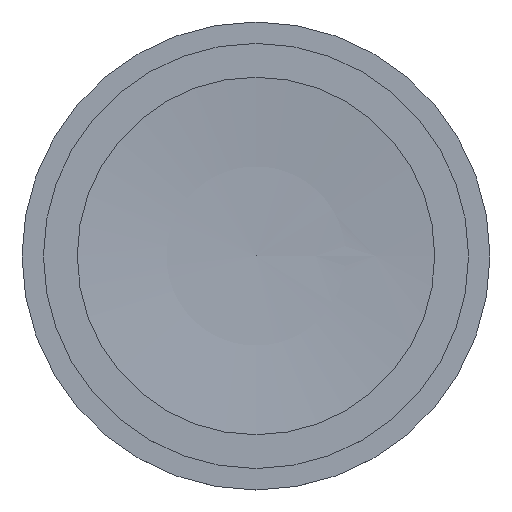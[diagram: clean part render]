
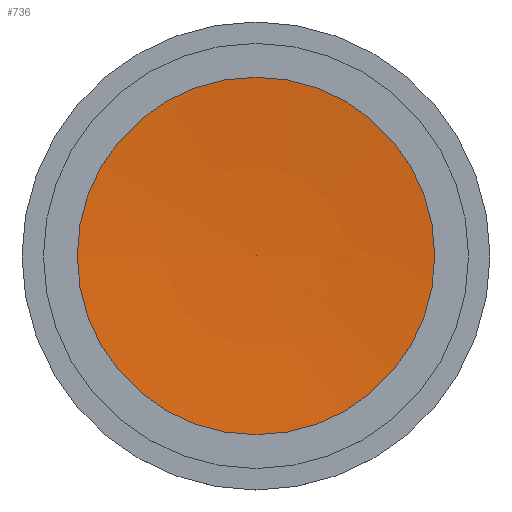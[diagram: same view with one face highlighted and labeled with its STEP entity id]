
A CAD part, top view. The second image highlights one B-rep face of the part: STEP entity #736.
In plain terms, the highlighted spherical face has radius 140 mm.
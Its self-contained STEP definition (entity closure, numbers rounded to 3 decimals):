
#674 = PLANE('',#675);
#675 = AXIS2_PLACEMENT_3D('',#676,#677,#678);
#676 = CARTESIAN_POINT('',(0.,-44.,10.95));
#677 = DIRECTION('',(0.,0.,1.));
#678 = DIRECTION('',(1.,0.,-0.));
#708 = EDGE_CURVE('',#709,#709,#711,.T.);
#709 = VERTEX_POINT('',#710);
#710 = CARTESIAN_POINT('',(12.948,-44.,10.95));
#711 = SURFACE_CURVE('',#712,(#717,#724),.PCURVE_S1.);
#712 = CIRCLE('',#713,12.948);
#713 = AXIS2_PLACEMENT_3D('',#714,#715,#716);
#714 = CARTESIAN_POINT('',(0.,-44.,10.95));
#715 = DIRECTION('',(0.,0.,1.));
#716 = DIRECTION('',(1.,0.,-0.));
#717 = PCURVE('',#674,#718);
#718 = DEFINITIONAL_REPRESENTATION('',(#719),#723);
#719 = CIRCLE('',#720,12.948);
#720 = AXIS2_PLACEMENT_2D('',#721,#722);
#721 = CARTESIAN_POINT('',(0.,0.));
#722 = DIRECTION('',(1.,0.));
#723 = ( GEOMETRIC_REPRESENTATION_CONTEXT(2) 
PARAMETRIC_REPRESENTATION_CONTEXT() REPRESENTATION_CONTEXT('2D SPACE',''
  ) );
#724 = PCURVE('',#725,#730);
#725 = SPHERICAL_SURFACE('',#726,140.);
#726 = AXIS2_PLACEMENT_3D('',#727,#728,#729);
#727 = CARTESIAN_POINT('',(0.,-44.,150.35));
#728 = DIRECTION('',(0.,0.,1.));
#729 = DIRECTION('',(1.,0.,-0.));
#730 = DEFINITIONAL_REPRESENTATION('',(#731),#735);
#731 = LINE('',#732,#733);
#732 = CARTESIAN_POINT('',(0.,-1.478));
#733 = VECTOR('',#734,1.);
#734 = DIRECTION('',(1.,0.));
#735 = ( GEOMETRIC_REPRESENTATION_CONTEXT(2) 
PARAMETRIC_REPRESENTATION_CONTEXT() REPRESENTATION_CONTEXT('2D SPACE',''
  ) );
#736 = ADVANCED_FACE('',(#737),#725,.F.);
#737 = FACE_BOUND('',#738,.F.);
#738 = EDGE_LOOP('',(#739,#740,#808));
#739 = ORIENTED_EDGE('',*,*,#708,.F.);
#740 = ORIENTED_EDGE('',*,*,#741,.F.);
#741 = EDGE_CURVE('',#742,#709,#744,.T.);
#742 = VERTEX_POINT('',#743);
#743 = CARTESIAN_POINT('',(0.,-44.,10.35));
#744 = SEAM_CURVE('',#745,(#750,#779),.PCURVE_S1.);
#745 = CIRCLE('',#746,140.);
#746 = AXIS2_PLACEMENT_3D('',#747,#748,#749);
#747 = CARTESIAN_POINT('',(0.,-44.,150.35));
#748 = DIRECTION('',(0.,-1.,0.));
#749 = DIRECTION('',(1.,0.,0.));
#750 = PCURVE('',#725,#751);
#751 = DEFINITIONAL_REPRESENTATION('',(#752),#778);
#752 = B_SPLINE_CURVE_WITH_KNOTS('',3,(#753,#754,#755,#756,#757,#758,
    #759,#760,#761,#762,#763,#764,#765,#766,#767,#768,#769,#770,#771,
    #772,#773,#774,#775,#776,#777),.UNSPECIFIED.,.F.,.F.,(4,1,1,1,1,1,1,
    1,1,1,1,1,1,1,1,1,1,1,1,1,1,1,4),(4.712,4.717,
    4.721,4.725,4.729,4.733,
    4.738,4.742,4.746,4.75,
    4.754,4.759,4.763,4.767,
    4.771,4.776,4.78,4.784,
    4.788,4.792,4.797,4.801,
    4.805),.QUASI_UNIFORM_KNOTS.);
#753 = CARTESIAN_POINT('',(0.,-1.571));
#754 = CARTESIAN_POINT('',(0.,-1.569));
#755 = CARTESIAN_POINT('',(0.,-1.567));
#756 = CARTESIAN_POINT('',(0.,-1.562));
#757 = CARTESIAN_POINT('',(0.,-1.558));
#758 = CARTESIAN_POINT('',(0.,-1.554));
#759 = CARTESIAN_POINT('',(0.,-1.55));
#760 = CARTESIAN_POINT('',(0.,-1.546));
#761 = CARTESIAN_POINT('',(0.,-1.541));
#762 = CARTESIAN_POINT('',(0.,-1.537));
#763 = CARTESIAN_POINT('',(0.,-1.533));
#764 = CARTESIAN_POINT('',(0.,-1.529));
#765 = CARTESIAN_POINT('',(0.,-1.524));
#766 = CARTESIAN_POINT('',(0.,-1.52));
#767 = CARTESIAN_POINT('',(0.,-1.516));
#768 = CARTESIAN_POINT('',(0.,-1.512));
#769 = CARTESIAN_POINT('',(0.,-1.508));
#770 = CARTESIAN_POINT('',(0.,-1.503));
#771 = CARTESIAN_POINT('',(0.,-1.499));
#772 = CARTESIAN_POINT('',(0.,-1.495));
#773 = CARTESIAN_POINT('',(0.,-1.491));
#774 = CARTESIAN_POINT('',(0.,-1.487));
#775 = CARTESIAN_POINT('',(0.,-1.482));
#776 = CARTESIAN_POINT('',(0.,-1.48));
#777 = CARTESIAN_POINT('',(0.,-1.478));
#778 = ( GEOMETRIC_REPRESENTATION_CONTEXT(2) 
PARAMETRIC_REPRESENTATION_CONTEXT() REPRESENTATION_CONTEXT('2D SPACE',''
  ) );
#779 = PCURVE('',#725,#780);
#780 = DEFINITIONAL_REPRESENTATION('',(#781),#807);
#781 = B_SPLINE_CURVE_WITH_KNOTS('',3,(#782,#783,#784,#785,#786,#787,
    #788,#789,#790,#791,#792,#793,#794,#795,#796,#797,#798,#799,#800,
    #801,#802,#803,#804,#805,#806),.UNSPECIFIED.,.F.,.F.,(4,1,1,1,1,1,1,
    1,1,1,1,1,1,1,1,1,1,1,1,1,1,1,4),(4.712,4.717,
    4.721,4.725,4.729,4.733,
    4.738,4.742,4.746,4.75,
    4.754,4.759,4.763,4.767,
    4.771,4.776,4.78,4.784,
    4.788,4.792,4.797,4.801,
    4.805),.QUASI_UNIFORM_KNOTS.);
#782 = CARTESIAN_POINT('',(6.283,-1.571));
#783 = CARTESIAN_POINT('',(6.283,-1.569));
#784 = CARTESIAN_POINT('',(6.283,-1.567));
#785 = CARTESIAN_POINT('',(6.283,-1.562));
#786 = CARTESIAN_POINT('',(6.283,-1.558));
#787 = CARTESIAN_POINT('',(6.283,-1.554));
#788 = CARTESIAN_POINT('',(6.283,-1.55));
#789 = CARTESIAN_POINT('',(6.283,-1.546));
#790 = CARTESIAN_POINT('',(6.283,-1.541));
#791 = CARTESIAN_POINT('',(6.283,-1.537));
#792 = CARTESIAN_POINT('',(6.283,-1.533));
#793 = CARTESIAN_POINT('',(6.283,-1.529));
#794 = CARTESIAN_POINT('',(6.283,-1.524));
#795 = CARTESIAN_POINT('',(6.283,-1.52));
#796 = CARTESIAN_POINT('',(6.283,-1.516));
#797 = CARTESIAN_POINT('',(6.283,-1.512));
#798 = CARTESIAN_POINT('',(6.283,-1.508));
#799 = CARTESIAN_POINT('',(6.283,-1.503));
#800 = CARTESIAN_POINT('',(6.283,-1.499));
#801 = CARTESIAN_POINT('',(6.283,-1.495));
#802 = CARTESIAN_POINT('',(6.283,-1.491));
#803 = CARTESIAN_POINT('',(6.283,-1.487));
#804 = CARTESIAN_POINT('',(6.283,-1.482));
#805 = CARTESIAN_POINT('',(6.283,-1.48));
#806 = CARTESIAN_POINT('',(6.283,-1.478));
#807 = ( GEOMETRIC_REPRESENTATION_CONTEXT(2) 
PARAMETRIC_REPRESENTATION_CONTEXT() REPRESENTATION_CONTEXT('2D SPACE',''
  ) );
#808 = ORIENTED_EDGE('',*,*,#741,.T.);
